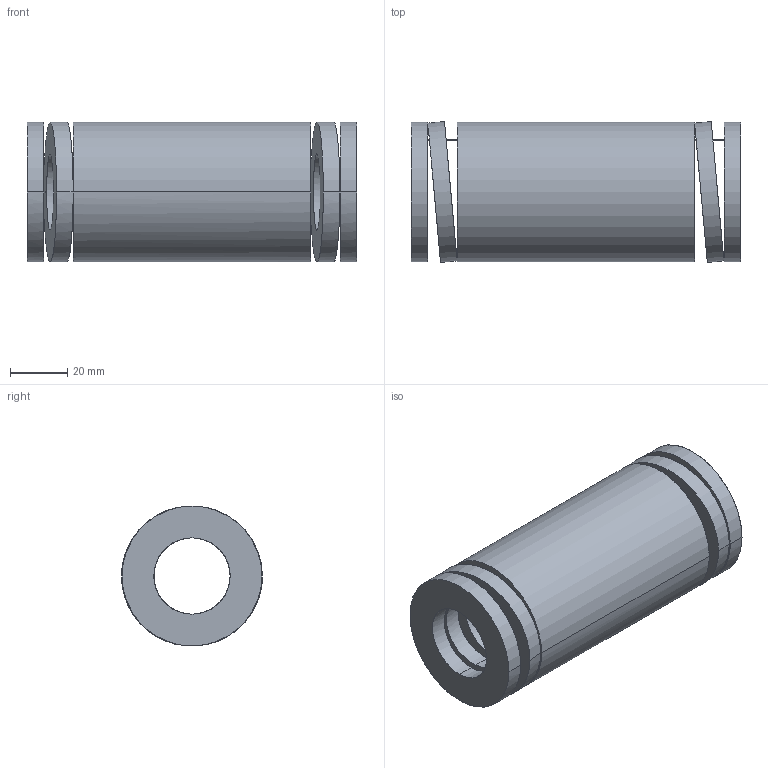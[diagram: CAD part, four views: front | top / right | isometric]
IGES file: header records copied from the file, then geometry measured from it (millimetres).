
Start section: START RECORD GO HERE.
Global section: file name: 392-B50-115.igs; native system: DASSAULT SYSTEMES CATIA V5 R20 - www.3ds.com; preprocessor: CATIA Version 5 Release 20 ; author: Utente; organization: NB04-ASUS; date: 20210813.132949; units: millimetre
Bounding box: 115 x 49.12 x 48.8 mm (x, y, z)
Surface area: 38236.8 mm2 (no closed solid volume)
Topology: 0 solids, 0 shells, 38 faces, 184 edges, 184 vertices
Faces by surface type: revolution 28, plane 10
